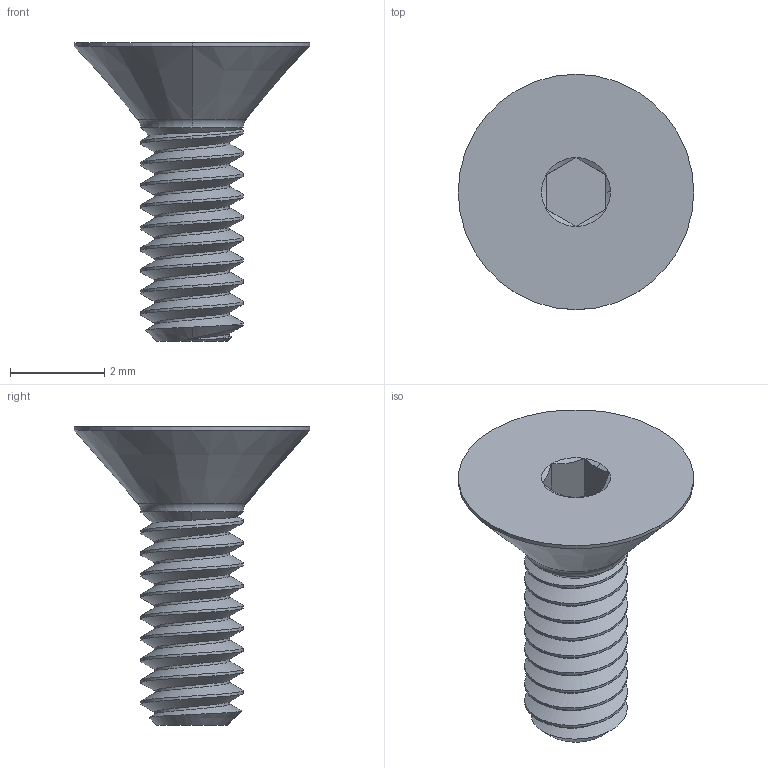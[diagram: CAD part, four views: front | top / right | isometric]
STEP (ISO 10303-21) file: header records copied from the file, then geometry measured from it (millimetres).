
FILE_DESCRIPTION (( 'STEP AP203' ), '1' );
FILE_NAME ('91253A077_Black-Oxide Alloy Steel Hex Drive Flat Head Screw.STEP', '2021-09-08T21:10:14', ( 'Administrator' ), ( 'Managed by Terraform' ), 'SwSTEP 2.0', 'SolidWorks 2017', '' );
FILE_SCHEMA (( 'CONFIG_CONTROL_DESIGN' ));
Length unit declared in the file: inch
Products named in the file (1): 91253A077_Black-Oxide Alloy Steel Hex Drive Flat Head Screw
Bounding box: 5 x 5 x 6.35 mm (x, y, z)
Volume: 30.6 mm3; surface area: 99.1 mm2
Topology: 1 solids, 1 shells, 51 faces, 125 edges, 77 vertices
Faces by surface type: cylinder 22, cone 15, plane 9, bspline 3, torus 2
Entity records: 3041 total; most frequent: CARTESIAN_POINT 1918, ORIENTED_EDGE 250, DIRECTION 187, EDGE_CURVE 125, VERTEX_POINT 77, AXIS2_PLACEMENT_3D 73, EDGE_LOOP 52, FACE_OUTER_BOUND 51
